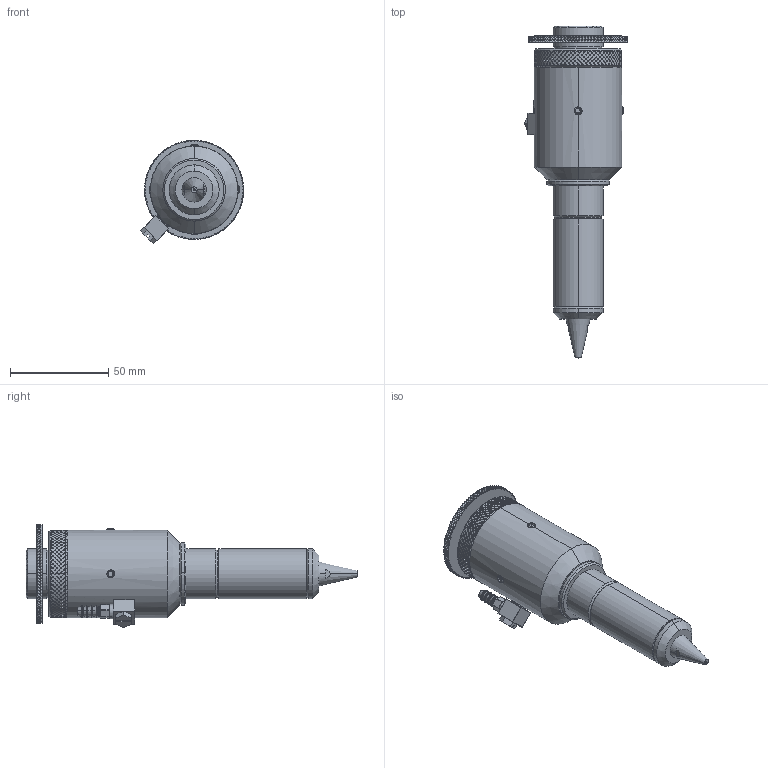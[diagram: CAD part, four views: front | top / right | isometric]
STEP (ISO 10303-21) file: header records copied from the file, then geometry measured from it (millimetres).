
FILE_DESCRIPTION (( 'STEP AP214' ), '1' );
FILE_NAME ('PHA-19-XX-127-LB.STEP', '2016-05-24T19:39:13', ( '' ), ( '' ), 'SwSTEP 2.0', 'SolidWorks 2016', '' );
FILE_SCHEMA (( 'AUTOMOTIVE_DESIGN' ));
Length unit declared in the file: inch
Products named in the file (1): PHA-19-XX-127-LB
Bounding box: 52.43 x 168.65 x 52.45 mm (x, y, z)
Volume: 141966.9 mm3; surface area: 26036.4 mm2
Topology: 2 solids, 2 shells, 5610 faces, 14129 edges, 8529 vertices
Faces by surface type: plane 4525, cylinder 989, cone 42, torus 34, sphere 20
Entity records: 235200 total; most frequent: CARTESIAN_POINT 40394, ORIENTED_EDGE 28218, DIRECTION 21966, EDGE_CURVE 14109, LINE 9652, VECTOR 9652, VERTEX_POINT 8529, AXIS2_PLACEMENT_3D 6157
